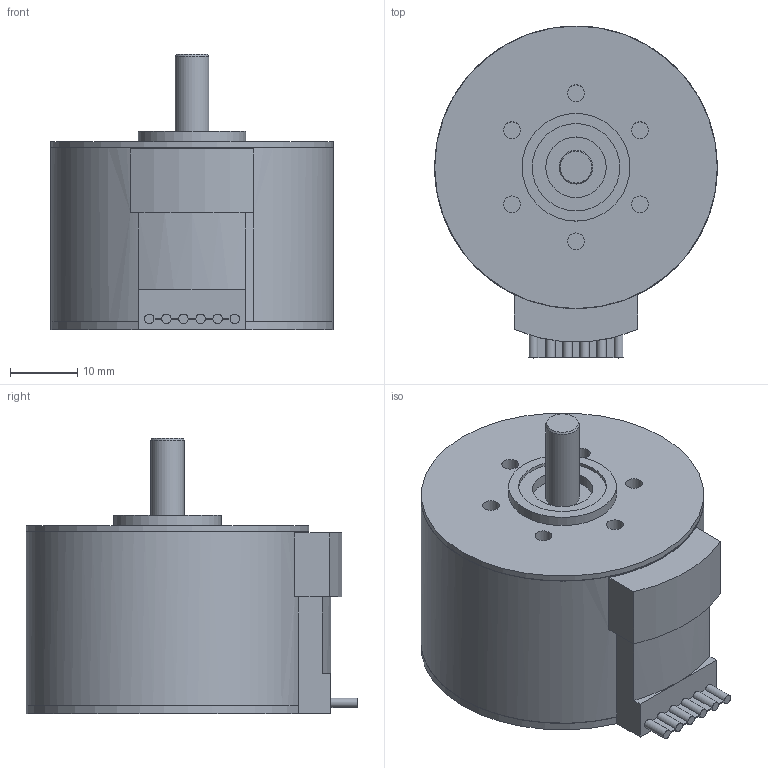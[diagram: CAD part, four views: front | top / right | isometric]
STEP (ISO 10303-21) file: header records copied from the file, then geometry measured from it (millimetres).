
FILE_DESCRIPTION(/* description */ (''),/* implementation_level */ '2;1');
FILE_NAME(/* name */ '4221.BXT_SC.stp',/* time_stamp */ '2020-03-03T13:22:41+01:00',/* author */ ('DR. FRITZ FAULHABER GmbH & Co. KG'),/* organization */ ('DR. FRITZ FAULHABER GmbH & Co. KG'),/* preprocessor_version */ 'ST-DEVELOPER v16.7',/* originating_system */ 'SIEMENS PLM Software NX 12.0',/* authorisation */ '');
FILE_SCHEMA (('AUTOMOTIVE_DESIGN { 1 0 10303 214 3 1 1 1 }'));
Length unit declared in the file: millimetre
Products named in the file (1): H00002320-A-4221.0H008
Bounding box: 42 x 49.3 x 41 mm (x, y, z)
Volume: 41009.7 mm3; surface area: 7536.3 mm2
Topology: 1 solids, 1 shells, 65 faces, 149 edges, 99 vertices
Faces by surface type: plane 36, cylinder 28, cone 1
Full cylindrical faces by diameter (mm): 2.5 x6, 5 x1, 9 x1, 13 x1, 16 x1, 41.999 x1, 42 x2
Entity records: 1757 total; most frequent: DIRECTION 319, CARTESIAN_POINT 290, ORIENTED_EDGE 260, EDGE_CURVE 130, AXIS2_PLACEMENT_3D 124, VERTEX_POINT 95, EDGE_LOOP 91, LINE 71
